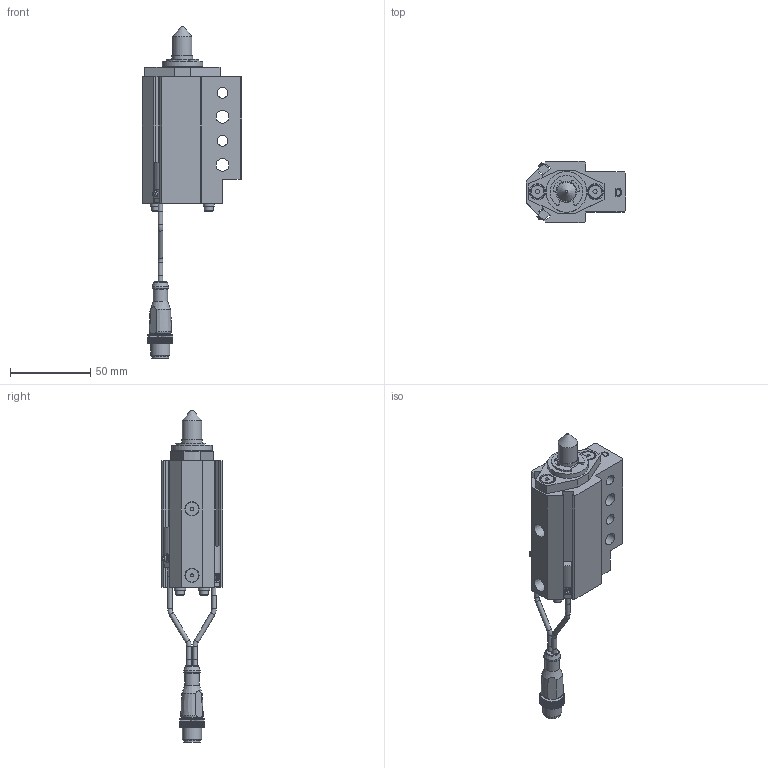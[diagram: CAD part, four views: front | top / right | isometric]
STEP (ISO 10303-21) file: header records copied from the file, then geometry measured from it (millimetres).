
FILE_DESCRIPTION(/* description */ ('NAAMS FLOATING MICRO PIN'),/* implementation_level */ '2;1');
FILE_NAME(/* name */ 'C:\Vault Workspace\CAD\Welker\Shot Pin\NMP\NMP120012ADNL3.stp',/* time_stamp */ '2021-01-27T10:11:29-05:00',/* author */ ('WELKER'),/* organization */ (''),/* preprocessor_version */ 'ST-DEVELOPER v18.1',/* originating_system */ 'Autodesk Inventor 2020',/* authorisation */ '');
FILE_SCHEMA (('AUTOMOTIVE_DESIGN { 1 0 10303 214 3 1 1 }'));
Length unit declared in the file: millimetre
Products named in the file (16): NMPL01; NMP L3 SWITCH; L3 Connector; L3 Sensor 1; L3 Sensor 2; L3 Sensor cable; L3 Sensor cable 2; M3X0.5-8 SHCS; NL3; NMPE06; NMPE03; NMPE05-DIA-LENGTH; 985432A218; NMPE01D-PORT; RMPE02; M5X5 SHOULDER
Assembly tree (22 placements, depth 3):
  NMPL01
    NMP L3 SWITCH
      L3 Connector
      L3 Sensor 1
      L3 Sensor 2
      L3 Sensor cable
      L3 Sensor cable 2
    M3X0.5-8 SHCS  x4
    NL3  x4
    NMPE06
    NMPE03
    NMPE05-DIA-LENGTH
    985432A218
    NMPE01D-PORT
    RMPE02
    M5X5 SHOULDER  x2
Bounding box: 62 x 38.1 x 207.12 mm (x, y, z)
Volume: 112459.6 mm3; surface area: 45132 mm2
Topology: 21 solids, 21 shells, 747 faces, 2022 edges, 1352 vertices
Faces by surface type: plane 548, cylinder 144, cone 31, torus 11, bspline 10, sphere 3
Full cylindrical faces by diameter (mm): 2 x2, 2.459 x4, 2.9 x10, 3 x5, 3.242 x2, 3.4 x4, 4 x2, 5 x6, 5.5 x4, 6.647 x2, 7 x4, 8 x2, 8.3 x2, 9 x3, 10 x3, 10.4 x1, 10.5 x1, 12 x2, 13 x3, 16 x2, 19.05 x3, 21 x1, 22.5 x1, 23.672 x1, 24 x1, 25.4 x1, 25.5 x1, 26.5 x1, 28.677 x1, 29.21 x1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
Entity records: 22825 total; most frequent: CARTESIAN_POINT 4228, ORIENTED_EDGE 3742, DIRECTION 3699, EDGE_CURVE 1871, LINE 1375, VECTOR 1375, VERTEX_POINT 1257, AXIS2_PLACEMENT_3D 1162
